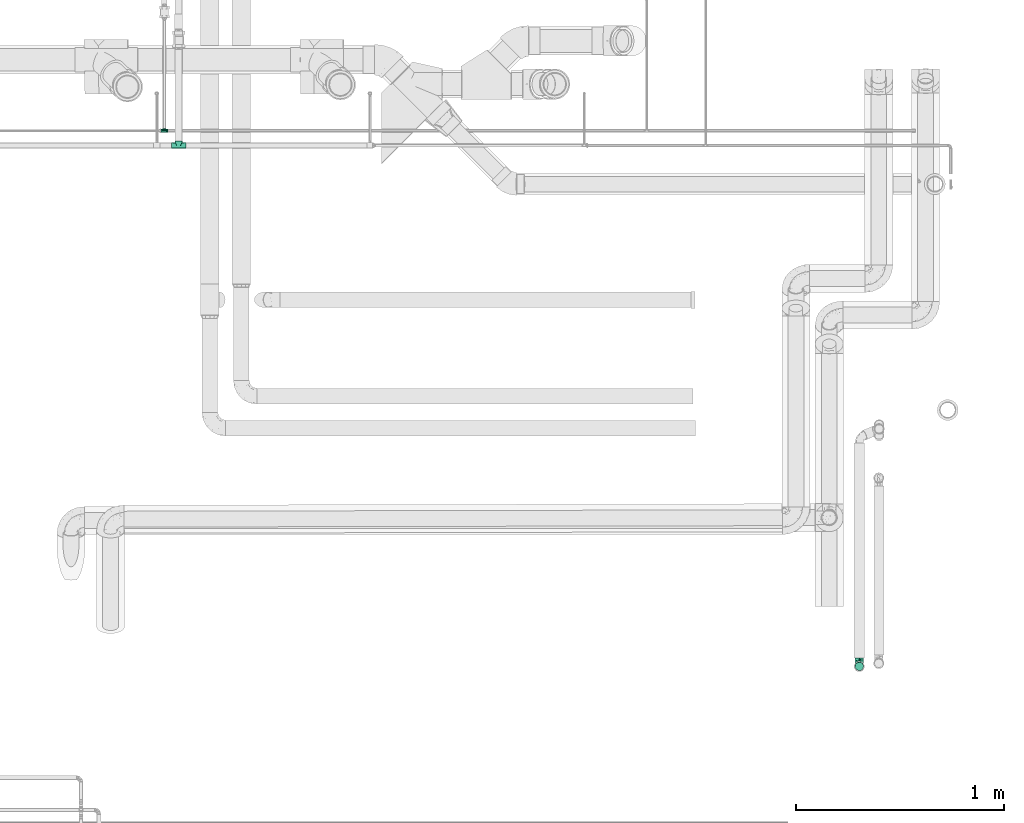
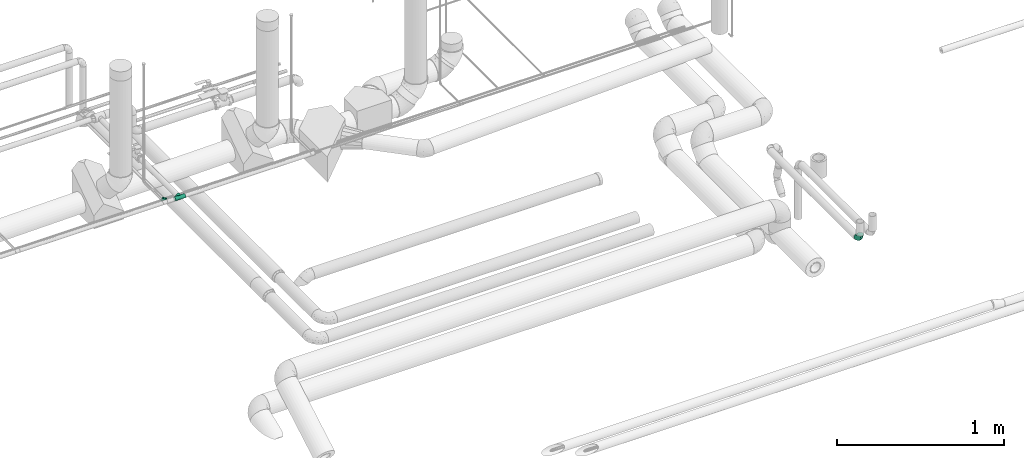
# One storey, part 148 of 156: 3 flow fittings.
"""IFC2X3 building model written with IfcOpenShell, lengths in millimetres."""

import ifcopenshell
import ifcopenshell.guid

model = None  # the IFC model being written
_history = None  # IfcOwnerHistory: only IFC2X3 demands one
_inside = {}  # id of a spatial element -> (the spatial element, [elements in it])
_under = {}  # id of a project, library or spatial element -> (it, [spatial elements below it])
_declared = {}  # id of a project -> (the project, [libraries it declares])
_typed = {}  # id of a type object -> (the type object, [elements of that type])
_made_of = {}  # id of a material, layer set ... -> (it, [elements and type objects made of it])


def new_model(schema):
    """Start an empty IFC model of exactly this schema.

    Asked for "IFC4X3", IfcOpenShell would pick the latest addendum, in which some entities
    have other attributes; the version numbers below select the first issue.
    IFC2X3 requires an IfcOwnerHistory on every rooted entity: one is made here for all.
    """
    global model, _history
    if schema == "IFC4X3":
        model = ifcopenshell.file(schema_version=(4, 3, 0, 0))
    else:
        model = ifcopenshell.file(schema=schema)
    _inside.clear()
    _under.clear()
    _declared.clear()
    _typed.clear()
    _made_of.clear()
    _history = None
    if model.schema == "IFC2X3":
        org = make("IfcOrganization", Name="unknown")
        user = make(
            "IfcPersonAndOrganization",
            ThePerson=make("IfcPerson", FamilyName="unknown"),
            TheOrganization=org,
        )
        app = make(
            "IfcApplication",
            ApplicationDeveloper=org,
            Version="unknown",
            ApplicationFullName="unknown",
            ApplicationIdentifier="unknown",
        )
        _history = make(
            "IfcOwnerHistory",
            OwningUser=user,
            OwningApplication=app,
            ChangeAction="ADDED",
            CreationDate=0,
        )
    return model


def make(cls, **values):
    """One entity of the class cls with the attributes given. An attribute that is None is left unset."""
    return model.create_entity(
        cls, **{name: value for name, value in values.items() if value is not None}
    )


def entity(cls, *values):
    """Any entity or typed value of the class cls, its attributes in the order of the schema. None: left unset."""
    e = model.create_entity(cls)
    for i, value in enumerate(values):
        if value is not None:
            e[i] = value
    return e


def rooted(cls, **values):
    """An entity with a GlobalId (a new one), such as an element, a storey or a relation."""
    return make(cls, GlobalId=ifcopenshell.guid.new(), OwnerHistory=_history, **values)


def si_unit(unit_type, name, prefix=None):
    """IfcSIUnit, for example si_unit("LENGTHUNIT", "METRE", prefix="MILLI")."""
    return make("IfcSIUnit", UnitType=unit_type, Prefix=prefix, Name=name)


def converted_unit(unit_type, name, factor, base, dimensions=None, offset=None):
    """IfcConversionBasedUnit, such as the inch: factor (a typed value) times the base unit."""
    return make(
        "IfcConversionBasedUnit"
        if offset is None
        else "IfcConversionBasedUnitWithOffset",
        ConversionOffset=offset,
        Dimensions=None
        if dimensions is None
        else entity("IfcDimensionalExponents", *dimensions),
        UnitType=unit_type,
        Name=name,
        ConversionFactor=make(
            "IfcMeasureWithUnit", ValueComponent=factor, UnitComponent=base
        ),
    )


def derived_unit(unit_type, elements):
    """IfcDerivedUnit: a product of units, each with its exponent."""
    return make(
        "IfcDerivedUnit",
        Elements=[
            make("IfcDerivedUnitElement", Unit=unit, Exponent=power)
            for unit, power in elements
        ],
        UnitType=unit_type,
    )


def assignment(units):
    """IfcUnitAssignment: the units of a project."""
    return None if units is None else make("IfcUnitAssignment", Units=units)


def point(xyz):
    """IfcCartesianPoint."""
    return None if xyz is None else make("IfcCartesianPoint", Coordinates=xyz)


def direction(xyz):
    """IfcDirection."""
    return None if xyz is None else make("IfcDirection", DirectionRatios=xyz)


def frame(location, z_axis=None, x_axis=None):
    """IfcAxis2Placement3D, a coordinate frame: its origin and axes. An axis left out is left unset."""
    return make(
        "IfcAxis2Placement3D",
        Location=point(location),
        Axis=direction(z_axis),
        RefDirection=direction(x_axis),
    )


def origin_with_axes():
    """The frame at (0, 0, 0) with the z axis (0, 0, 1) and the x axis (1, 0, 0) written out."""
    return frame((0.0, 0.0, 0.0), z_axis=(0.0, 0.0, 1.0), x_axis=(1.0, 0.0, 0.0))


def place(relative_to, where):
    """IfcLocalPlacement: puts the frame where relative to a parent placement (None: the world)."""
    return make(
        "IfcLocalPlacement", PlacementRelTo=relative_to, RelativePlacement=where
    )


def context(
    kind, dimensions, precision=None, world=None, true_north=None, identifier=None
):
    """IfcGeometricRepresentationContext, for example the 3D "Model" context."""
    return make(
        "IfcGeometricRepresentationContext",
        ContextIdentifier=identifier,
        ContextType=kind,
        CoordinateSpaceDimension=dimensions,
        Precision=precision,
        WorldCoordinateSystem=world,
        TrueNorth=true_north,
    )


def subcontext(parent, identifier, kind, view, scale=None):
    """IfcGeometricRepresentationSubContext, for example "Body" below "Model"."""
    return make(
        "IfcGeometricRepresentationSubContext",
        ContextIdentifier=identifier,
        ContextType=kind,
        ParentContext=parent,
        TargetScale=scale,
        TargetView=view,
    )


def project(units=None, contexts=None):
    """IfcProject with its units and contexts."""
    return rooted(
        "IfcProject",
        Name="project",
        RepresentationContexts=contexts,
        UnitsInContext=assignment(units),
    )


def spatial(cls, under=None, at=None, **own):
    """A site, building, storey or space (cls), placed at a placement, below another one or the project."""
    s = rooted(cls, ObjectPlacement=at, **own)
    if under is not None:
        _under.setdefault(under.id(), (under, []))[1].append(s)
    return s


def faces_of(points, faces, orient=None, outer=None):
    """IfcFace entities. A face is a list of loops; a loop is a list of indices into points, from 0.

    orient and outer hold one flag for each loop. By default every Orientation is true, the
    first loop of a face is its IfcFaceOuterBound and the others are IfcFaceBound.
    """
    made = []
    for i, loops in enumerate(faces):
        bounds = []
        for j, loop in enumerate(loops):
            is_outer = j == 0 if outer is None else outer[i][j]
            bounds.append(
                make(
                    "IfcFaceOuterBound" if is_outer else "IfcFaceBound",
                    Bound=make("IfcPolyLoop", Polygon=[points[k] for k in loop]),
                    Orientation=True if orient is None else orient[i][j],
                )
            )
        made.append(make("IfcFace", Bounds=bounds))
    return made


def open_shell(faces, orient=None, outer=None):
    """The faces of one IfcOpenShell. surface_model builds it on its shared points."""
    return ("IfcOpenShell", faces, orient, outer)


def surface_model(cls, points, shells):
    """IfcFaceBasedSurfaceModel or IfcShellBasedSurfaceModel (cls): surfaces that need not close."""
    shared = [point(p) for p in points]
    made = [make(c, CfsFaces=faces_of(shared, fs, o, b)) for c, fs, o, b in shells]
    if cls == "IfcFaceBasedSurfaceModel":
        return make(cls, FbsmFaces=made)
    return make(cls, SbsmBoundary=made)


def shape(context_of_items, identifier, shape_type, items):
    """IfcShapeRepresentation: the items that make up one representation, for example the "Body"."""
    return make(
        "IfcShapeRepresentation",
        ContextOfItems=context_of_items,
        RepresentationIdentifier=identifier,
        RepresentationType=shape_type,
        Items=items,
    )


def source(mapping_origin, context_of_items, identifier, shape_type, items):
    """IfcRepresentationMap: a shape defined once, which mapped items show again and again."""
    return make(
        "IfcRepresentationMap",
        MappingOrigin=mapping_origin,
        MappedRepresentation=shape(context_of_items, identifier, shape_type, items),
    )


def transform(
    local_origin,
    x_axis=None,
    y_axis=None,
    z_axis=None,
    scale=None,
    scale2=None,
    scale3=None,
    uniform=True,
):
    """IfcCartesianTransformationOperator3D, or its non-uniform kind. x_axis, y_axis, z_axis: its Axis1, 2, 3."""
    if uniform:
        return make(
            "IfcCartesianTransformationOperator3D",
            Axis1=direction(x_axis),
            Axis2=direction(y_axis),
            LocalOrigin=point(local_origin),
            Scale=scale,
            Axis3=direction(z_axis),
        )
    return make(
        "IfcCartesianTransformationOperator3DnonUniform",
        Axis1=direction(x_axis),
        Axis2=direction(y_axis),
        LocalOrigin=point(local_origin),
        Scale=scale,
        Axis3=direction(z_axis),
        Scale2=scale2,
        Scale3=scale3,
    )


def mapped(mapping_source, mapping_target):
    """IfcMappedItem: shows the shape of a source again, moved by a transform."""
    return make(
        "IfcMappedItem", MappingSource=mapping_source, MappingTarget=mapping_target
    )


def made_of(thing, what):
    """Note that an element or type object is made of a material, layer set ...; save() writes the relation."""
    if what is not None:
        _made_of.setdefault(what.id(), (what, []))[1].append(thing)
    return thing


def type_object(cls, material=None, **own):
    """A type object (cls), such as IfcWallType, which elements share."""
    return made_of(rooted(cls, **own), material)


def element(
    cls,
    number,
    at=None,
    inside=None,
    cuts=None,
    type_object=None,
    material=None,
    context=None,
    identifier="Body",
    shape_type=None,
    held_by="IfcProductDefinitionShape",
    body=None,
    shapes=None,
    **own,
):
    """One element of the class cls, such as IfcWall. Its Tag is "e" and its number.

    at: its placement. inside: the storey or other place that contains it. cuts: it is an
    opening in that element (IfcRelVoidsElement). A single representation is given by context,
    identifier, shape_type and body (its items); several are given by shapes. held_by: the class
    of the entity that holds the representations. save() writes the other relations.
    """
    e = rooted(cls, Tag="e%d" % number, ObjectPlacement=at, **own)
    if body is not None:
        shapes = [shape(context, identifier, shape_type, body)]
    if shapes is not None:
        e.Representation = make(held_by, Representations=shapes)
    if inside is not None:
        _inside.setdefault(inside.id(), (inside, []))[1].append(e)
    if cuts is not None:
        rooted(
            "IfcRelVoidsElement", RelatingBuildingElement=cuts, RelatedOpeningElement=e
        )
    if type_object is not None:
        _typed.setdefault(type_object.id(), (type_object, []))[1].append(e)
    return made_of(e, material)


def aggregate(whole, parts):
    """IfcRelAggregates: a whole, such as a stair, and the parts it consists of."""
    return rooted("IfcRelAggregates", RelatingObject=whole, RelatedObjects=parts)


def save(model, path):
    """Write the relations noted so far, then the file.

    IfcRelAggregates (storeys below a building ...), IfcRelContainedInSpatialStructure (elements
    in a storey), IfcRelDefinesByType, IfcRelAssociatesMaterial and IfcRelDeclares: one each for
    every whole, place, type object, material and project.
    """
    for whole, parts in _under.values():
        aggregate(whole, parts)
    for where, things in _inside.values():
        rooted(
            "IfcRelContainedInSpatialStructure",
            RelatedElements=things,
            RelatingStructure=where,
        )
    for kind, things in _typed.values():
        rooted("IfcRelDefinesByType", RelatedObjects=things, RelatingType=kind)
    for what, things in _made_of.values():
        rooted("IfcRelAssociatesMaterial", RelatedObjects=things, RelatingMaterial=what)
    for by, libraries in _declared.values():
        rooted("IfcRelDeclares", RelatingContext=by, RelatedDefinitions=libraries)
    model.write(path)


model = new_model("IFC2X3")

# Units and contexts
model_context = context("Model", 3, precision=0.01, world=frame((0.0, 4.29681676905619e-09, 0.0)), true_north=direction((4.01073788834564e-13, 1.0)))
plan_context = context("Plan", 3, precision=0.01, world=frame((0.0, 4.29681676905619e-09, 0.0)), true_north=direction((4.01073788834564e-13, 1.0)))
body_context = subcontext(model_context, "Body", "Model", "MODEL_VIEW")
ifc_project = project(units=[converted_unit("PLANEANGLEUNIT", "DEGREE", entity("IfcPositiveLengthMeasure", 0.0174532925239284), si_unit("PLANEANGLEUNIT", "RADIAN"), dimensions=[0, 0, 0, 0, 0, 0, 0]), si_unit("AREAUNIT", "SQUARE_METRE"), si_unit("LENGTHUNIT", "METRE", prefix="MILLI"), si_unit("MASSUNIT", "GRAM", prefix="KILO"), si_unit("POWERUNIT", "WATT"), si_unit("PRESSUREUNIT", "PASCAL", prefix="KILO"), si_unit("FORCEUNIT", "NEWTON", prefix="KILO"), si_unit("ELECTRICVOLTAGEUNIT", "VOLT"), si_unit("ELECTRICCURRENTUNIT", "AMPERE"), si_unit("THERMODYNAMICTEMPERATUREUNIT", "DEGREE_CELSIUS"), si_unit("TIMEUNIT", "SECOND"), si_unit("VOLUMEUNIT", "CUBIC_METRE"), derived_unit("LINEARVELOCITYUNIT", [(si_unit("LENGTHUNIT", "METRE"), 1), (si_unit("TIMEUNIT", "SECOND"), -1)]), derived_unit("VOLUMETRICFLOWRATEUNIT", [(si_unit("VOLUMEUNIT", "CUBIC_METRE"), 1), (si_unit("TIMEUNIT", "SECOND"), -1)]), derived_unit("THERMALTRANSMITTANCEUNIT", [(si_unit("POWERUNIT", "WATT"), 1), (si_unit("THERMODYNAMICTEMPERATUREUNIT", "KELVIN"), -1), (si_unit("AREAUNIT", "SQUARE_METRE"), -1)]), derived_unit("SOUNDPRESSUREUNIT", [(si_unit("PRESSUREUNIT", "PASCAL"), 1)])], contexts=[model_context, plan_context])

# Site, building, storey
site_placement = place(None, frame((0.0, -4.29681676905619e-09, 0.0), z_axis=(0.0, 0.0, 1.0), x_axis=(1.0, 0.0, 0.0)))
site = spatial("IfcSite", under=ifc_project, at=site_placement, CompositionType="ELEMENT")
building_placement = place(site_placement, frame((0.0, 4.29681676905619e-09, 0.0), z_axis=(0.0, 0.0, 1.0), x_axis=(1.0, 0.0, 0.0)))
building = spatial("IfcBuilding", under=site, at=building_placement, Name="mc-building", CompositionType="ELEMENT")
storey_placement = place(building_placement, frame((0.0, 0.0, 205200.0), z_axis=(0.0, 0.0, 1.0), x_axis=(1.0, 0.0, 0.0)))
storey = spatial("IfcBuildingStorey", under=building, at=storey_placement, Name="Nivå D + 1,2 m", CompositionType="ELEMENT", Elevation=205200.0)

# Flow fittings
pipe_fitting_type_1 = type_object("IfcPipeFittingType", Name="magi_pipe_tee_centric_90_001", PredefinedType="JUNCTION")
shared_shape_1 = source(origin_with_axes(), body_context, "Body", "SurfaceModel", [
    surface_model("IfcShellBasedSurfaceModel", [(-35.0, 3.62347, -13.52296), (-35.0, 0.0, -14.0), (-35.0, 9.89949, -9.89949), (-35.0, 7.0, -12.12436), (-35.0, 13.52296, -3.62347), (-35.0, 12.12436, -7.0), (-35.0, -12.12436, -7.0), (-35.0, -9.89949, -9.89949), (-35.0, -7.0, -12.12436), (-35.0, -3.62347, -13.52296), (-35.0, -13.52296, -3.62347), (-35.0, -14.0, 0.0), (-35.0, 14.0, 0.0), (-35.0, 12.12436, 7.0), (-35.0, 13.52296, 3.62347), (-35.0, 3.62347, 13.52296), (-35.0, 7.0, 12.12436), (-35.0, 9.89949, 9.89949), (-35.0, 0.0, 14.0), (-35.0, -13.52296, 3.62347), (-35.0, -12.12436, 7.0), (-35.0, -9.89949, 9.89949), (-35.0, -7.0, 12.12436), (-35.0, -3.62347, 13.52296), (35.0, 9.89949, -9.89949), (35.0, 0.0, -14.0), (35.0, 3.62347, -13.52296), (35.0, 7.0, -12.12436), (35.0, 12.12436, -7.0), (35.0, 13.52296, -3.62347), (35.0, -12.12436, -7.0), (35.0, -7.0, -12.12436), (35.0, -9.89949, -9.89949), (35.0, -3.62347, -13.52296), (35.0, -14.0, 0.0), (35.0, -13.52296, -3.62347), (35.0, -7.0, 12.12436), (35.0, 14.0, 0.0), (35.0, 13.52296, 3.62347), (35.0, 12.12436, 7.0), (35.0, 3.62347, 13.52296), (35.0, 7.0, 12.12436), (35.0, 9.89949, 9.89949), (35.0, 0.0, 14.0), (35.0, -12.12436, 7.0), (35.0, -13.52296, 3.62347), (35.0, -9.89949, 9.89949), (35.0, -3.62347, 13.52296), (17.18926, -13.60958, 3.28321), (35.0, -12.82366, 5.31173), (16.32877, -12.50515, 6.29454), (16.75902, -13.05736, 4.78887), (17.5, -14.0, 0.0), (13.63414, -8.69711, 10.97089), (35.0, -8.44975, 11.01193), (15.08249, -10.82735, 8.87516), (35.0, -11.01193, 8.44975), (14.35831, -9.76223, 9.92302), (15.70563, -11.66625, 7.58485), (-16.32877, -12.50515, 6.29454), (-15.70563, -11.66625, 7.58485), (-35.0, -12.82366, 5.31173), (-16.75902, -13.05736, 4.78887), (-17.5, -14.0, 0.0), (-17.18926, -13.60958, 3.28321), (12.17994, -6.1726, 12.56579), (35.0, -5.31173, 12.82366), (-13.63414, -8.69711, 10.97089), (-12.17994, -6.1726, 12.56579), (-14.35831, -9.76223, 9.92302), (-35.0, -11.01193, 8.44975), (-35.0, -8.44975, 11.01193), (-35.0, -5.31173, 12.82366), (-15.08249, -10.82735, 8.87516), (10.99292, -3.25489, 13.61638), (10.5, 0.0, 14.0), (-10.5, 0.0, 14.0), (-10.99292, -3.25489, 13.61638), (-35.0, -12.82366, -5.31173), (-16.32877, -12.50515, -6.29454), (-16.75902, -13.05736, -4.78887), (10.99292, -3.25489, -13.61638), (10.5, 0.0, -14.0), (-15.70563, -11.66625, -7.58485), (-35.0, -11.01193, -8.44975), (-15.08249, -10.82735, -8.87516), (-12.17994, -6.1726, -12.56579), (-35.0, -5.31173, -12.82366), (-10.5, 0.0, -14.0), (-13.63414, -8.69711, -10.97089), (-14.35831, -9.76223, -9.92302), (16.75902, -13.05736, -4.78887), (35.0, -12.82366, -5.31173), (-10.99292, -3.25489, -13.61638), (-17.18926, -13.60958, -3.28321), (-35.0, -8.44975, -11.01193), (35.0, -5.31173, -12.82366), (15.70563, -11.66625, -7.58485), (35.0, -11.01193, -8.44975), (13.63414, -8.69711, -10.97089), (35.0, -8.44975, -11.01193), (14.35831, -9.76223, -9.92302), (16.32877, -12.50515, -6.29454), (12.17994, -6.1726, -12.56579), (15.08249, -10.82735, -8.87516), (17.18926, -13.60958, -3.28321), (4.52933, -21.0, -16.9037), (-12.37437, -21.0, -12.37437), (0.0, -21.0, -17.5), (12.37437, -21.0, -12.37437), (8.75, -21.0, -15.15544), (15.15544, -21.0, -8.75), (16.9037, -21.0, -4.52933), (16.9037, -21.0, 4.52933), (-16.9037, -21.0, -4.52933), (-8.75, -21.0, -15.15544), (-4.52933, -21.0, -16.9037), (-15.15544, -21.0, -8.75), (8.75, -21.0, 15.15544), (-17.5, -21.0, 0.0), (15.15544, -21.0, 8.75), (4.52933, -21.0, 16.9037), (12.37437, -21.0, 12.37437), (0.0, -21.0, 17.5), (-15.15544, -21.0, 8.75), (-16.9037, -21.0, 4.52933), (-12.37437, -21.0, 12.37437), (-4.52933, -21.0, 16.9037), (-8.75, -21.0, 15.15544), (17.5, -21.0, 0.0), (-7.27702, 0.0, 15.91524), (-3.72385, 0.0, 17.09921), (-0.00025, 0.0, 17.5), (3.72299, 0.0, 17.0994), (7.27593, 0.0, 15.91574), (7.27593, 0.0, -15.91574), (3.72299, 0.0, -17.0994), (-0.00025, 0.0, -17.5), (-7.27702, 0.0, -15.91524), (-3.72385, 0.0, -17.09921)], [open_shell([[[0, 1, 2]], [[3, 0, 2]], [[1, 4, 5]], [[2, 1, 5]], [[6, 4, 1]], [[7, 6, 8]], [[9, 8, 6]], [[10, 11, 6]], [[1, 9, 6]], [[6, 11, 4]], [[11, 12, 4]], [[13, 14, 12]], [[15, 13, 12]], [[13, 15, 16]], [[17, 13, 16]], [[18, 15, 12]], [[19, 20, 11]], [[20, 21, 11]], [[22, 23, 12]], [[21, 22, 11]], [[12, 23, 18]], [[12, 11, 22]], [[24, 25, 26]], [[24, 26, 27]], [[28, 29, 25]], [[28, 25, 24]], [[25, 29, 30]], [[31, 30, 32]], [[30, 31, 33]], [[30, 34, 35]], [[30, 33, 25]], [[30, 36, 34]], [[30, 29, 37]], [[37, 38, 39]], [[37, 39, 40]], [[41, 40, 39]], [[41, 39, 42]], [[37, 40, 43]], [[34, 44, 45]], [[34, 46, 44]], [[47, 36, 30]], [[34, 36, 46]], [[43, 47, 37]], [[30, 37, 47]], [[34, 45, 48]], [[49, 50, 51]], [[48, 52, 34]], [[45, 49, 51]], [[53, 46, 54]], [[49, 44, 50]], [[54, 36, 53]], [[46, 55, 56]], [[55, 46, 57]], [[45, 51, 48]], [[44, 58, 50]], [[20, 59, 60]], [[46, 53, 57]], [[59, 61, 62]], [[19, 62, 61]], [[63, 64, 11]], [[11, 64, 19]], [[19, 64, 62]], [[65, 36, 66]], [[58, 56, 55]], [[56, 58, 44]], [[67, 68, 22]], [[69, 67, 21]], [[70, 20, 60]], [[21, 67, 71]], [[68, 72, 22]], [[70, 60, 73]], [[21, 73, 69]], [[53, 36, 65]], [[74, 43, 75]], [[66, 74, 65]], [[74, 66, 47]], [[74, 47, 43]], [[73, 21, 70]], [[75, 43, 40]], [[39, 38, 14]], [[17, 41, 42]], [[13, 42, 39]], [[40, 41, 16]], [[12, 38, 37]], [[18, 76, 15]], [[67, 22, 71]], [[23, 77, 18]], [[72, 77, 23]], [[18, 77, 76]], [[76, 75, 15]], [[77, 72, 68]], [[40, 15, 75]], [[16, 15, 40]], [[16, 41, 17]], [[13, 17, 42]], [[14, 13, 39]], [[38, 12, 14]], [[59, 20, 61]], [[78, 79, 80]], [[5, 28, 24]], [[5, 29, 28]], [[24, 27, 3]], [[12, 37, 29]], [[25, 33, 81]], [[25, 82, 26]], [[82, 25, 81]], [[83, 84, 85]], [[27, 26, 0]], [[86, 8, 87]], [[82, 88, 26]], [[7, 89, 90]], [[5, 4, 29]], [[35, 91, 92]], [[3, 2, 24]], [[5, 24, 2]], [[4, 12, 29]], [[1, 88, 93]], [[10, 80, 94]], [[89, 7, 95]], [[93, 86, 87]], [[88, 1, 0]], [[1, 93, 9]], [[87, 9, 93]], [[0, 3, 27]], [[88, 0, 26]], [[33, 96, 81]], [[30, 97, 98]], [[32, 99, 100]], [[99, 32, 101]], [[102, 30, 92]], [[31, 99, 103]], [[97, 104, 98]], [[35, 34, 105]], [[102, 92, 91]], [[52, 105, 34]], [[32, 104, 101]], [[91, 35, 105]], [[89, 8, 86]], [[99, 31, 100]], [[89, 95, 8]], [[7, 90, 85]], [[7, 85, 84]], [[104, 32, 98]], [[81, 96, 103]], [[30, 102, 97]], [[84, 83, 6]], [[94, 63, 11]], [[10, 78, 80]], [[79, 78, 6]], [[10, 94, 11]], [[79, 6, 83]], [[31, 103, 96]], [[106, 107, 108]], [[109, 106, 110]], [[109, 111, 112]], [[106, 109, 107]], [[109, 113, 114]], [[108, 115, 116]], [[108, 107, 115]], [[107, 114, 117]], [[109, 114, 107]], [[114, 118, 119]], [[113, 109, 112]], [[114, 113, 120]], [[114, 120, 118]], [[121, 119, 118]], [[118, 120, 122]], [[123, 119, 121]], [[119, 124, 125]], [[119, 126, 124]], [[126, 127, 128]], [[126, 119, 127]], [[127, 119, 123]], [[113, 112, 129]], [[119, 125, 64]], [[64, 63, 119]], [[64, 125, 59]], [[124, 126, 67]], [[126, 128, 68]], [[125, 124, 59]], [[130, 128, 127]], [[73, 59, 124]], [[67, 126, 68]], [[124, 67, 73]], [[77, 128, 130]], [[127, 131, 130]], [[77, 130, 76]], [[68, 128, 77]], [[132, 131, 123]], [[131, 127, 123]], [[121, 133, 123]], [[134, 121, 118]], [[118, 122, 65]], [[48, 113, 129]], [[122, 120, 53]], [[113, 50, 120]], [[129, 52, 48]], [[74, 75, 134]], [[134, 118, 74]], [[134, 133, 121]], [[48, 50, 113]], [[118, 65, 74]], [[65, 122, 53]], [[50, 55, 120]], [[120, 55, 53]], [[123, 133, 132]], [[52, 129, 105]], [[111, 102, 112]], [[129, 112, 105]], [[109, 110, 103]], [[110, 106, 135]], [[111, 109, 99]], [[136, 106, 108]], [[102, 105, 112]], [[104, 111, 99]], [[102, 111, 104]], [[103, 110, 81]], [[81, 135, 82]], [[110, 135, 81]], [[99, 109, 103]], [[135, 106, 136]], [[108, 137, 136]], [[86, 115, 107]], [[138, 116, 115]], [[89, 107, 117]], [[114, 119, 94]], [[63, 94, 119]], [[117, 114, 79]], [[79, 114, 94]], [[139, 116, 138]], [[138, 93, 88]], [[108, 139, 137]], [[79, 85, 117]], [[93, 138, 115]], [[86, 93, 115]], [[86, 107, 89]], [[117, 85, 89]], [[139, 108, 116]], [[130, 131, 76]], [[75, 76, 134]], [[76, 132, 133]], [[132, 76, 131]], [[133, 134, 76]], [[139, 136, 137]], [[135, 136, 139]], [[88, 82, 135]], [[88, 139, 138]], [[135, 139, 88]]])]),
])
flow_fitting_1_placement = place(storey_placement, frame((326734.3046, 462313.63355, 4318.0), z_axis=(0.0, 0.0, 1.0), x_axis=(-1.0, 0.0, 0.0)))
element("IfcFlowFitting", 1, at=flow_fitting_1_placement, inside=storey, type_object=pipe_fitting_type_1, Name="magi_pipe_tee_centric_90_001", context=body_context, shape_type="MappedRepresentation", body=[
    mapped(shared_shape_1, transform((0.0, 0.0, 0.0), scale=1.0)),
])
shared_shape_2 = source(origin_with_axes(), body_context, "Body", "SurfaceModel", [
    surface_model("IfcShellBasedSurfaceModel", [(-18.0, 3.75, -6.49519), (-18.0, 1.94114, -7.24444), (-18.0, 0.0, -7.5), (-18.0, -7.5, 0.0), (-18.0, 6.49519, -3.75), (-18.0, 5.3033, -5.3033), (-18.0, -7.24444, 1.94114), (-18.0, -5.3033, -5.3033), (-18.0, -3.75, -6.49519), (-18.0, -1.94114, -7.24444), (-18.0, -6.49519, -3.75), (-18.0, -7.24444, -1.94114), (-18.0, 7.24444, -1.94114), (-18.0, 6.49519, 3.75), (-18.0, 7.24444, 1.94114), (-18.0, 7.5, 0.0), (-18.0, 3.75, 6.49519), (-18.0, 5.3033, 5.3033), (-18.0, 1.94114, 7.24444), (-18.0, 0.0, 7.5), (-18.0, -6.49519, 3.75), (-18.0, -5.3033, 5.3033), (-18.0, -1.94114, 7.24444), (-18.0, -3.75, 6.49519), (18.0, 0.0, -7.5), (18.0, 1.94114, -7.24444), (18.0, 3.75, -6.49519), (18.0, -7.24444, 1.94114), (18.0, -7.5, 0.0), (18.0, 6.49519, -3.75), (18.0, 5.3033, -5.3033), (18.0, 6.49519, 3.75), (18.0, -5.3033, -5.3033), (18.0, -3.75, -6.49519), (18.0, -1.94114, -7.24444), (18.0, -7.24444, -1.94114), (18.0, -6.49519, -3.75), (18.0, 7.24444, -1.94114), (18.0, 7.5, 0.0), (18.0, 7.24444, 1.94114), (18.0, 3.75, 6.49519), (18.0, 5.3033, 5.3033), (18.0, 0.0, 7.5), (18.0, 1.94114, 7.24444), (18.0, -5.3033, 5.3033), (18.0, -6.49519, 3.75), (18.0, -3.75, 6.49519), (18.0, -1.94114, 7.24444), (9.0, -7.5, 0.0), (8.82384, -7.28767, 1.77195), (8.33672, -6.68961, 3.39103), (7.63139, -5.78689, 4.77094), (6.80858, -4.64831, 5.88585), (5.97298, -3.30553, 6.73227), (-8.82384, -7.28767, 1.77195), (-9.0, -7.5, 0.0), (-8.33672, -6.68961, 3.39103), (-6.80858, -4.64831, 5.88585), (-7.63139, -5.78689, 4.77094), (5.27431, -1.75166, 7.29258), (4.97494, 0.0, 7.5), (-4.97494, 0.0, 7.5), (-5.27431, -1.75166, 7.29258), (-5.97298, -3.30553, 6.73227), (4.97494, 0.0, -7.5), (5.27431, -1.75166, -7.29258), (5.97298, -3.30553, -6.73227), (6.80858, -4.64831, -5.88585), (-4.97494, 0.0, -7.5), (-5.27431, -1.75166, -7.29258), (-5.97298, -3.30553, -6.73227), (7.63139, -5.78689, -4.77094), (8.33672, -6.68961, -3.39103), (8.82384, -7.28767, -1.77195), (-6.80858, -4.64831, -5.88585), (-7.63139, -5.78689, -4.77094), (-8.33672, -6.68961, -3.39103), (-8.82384, -7.28767, -1.77195), (0.0, -11.25, -9.0), (2.32937, -11.25, -8.69333), (4.5, -11.25, -7.79423), (-8.69333, -11.25, 2.32937), (-4.5, -11.25, 7.79423), (6.36396, -11.25, -6.36396), (7.79423, -11.25, -4.5), (-9.0, -11.25, 0.0), (-2.32937, -11.25, -8.69333), (-6.36396, -11.25, -6.36396), (-4.5, -11.25, -7.79423), (-7.79423, -11.25, -4.5), (-8.69333, -11.25, -2.32937), (8.69333, -11.25, -2.32937), (8.69333, -11.25, 2.32937), (9.0, -11.25, 0.0), (2.32937, -11.25, 8.69333), (7.79423, -11.25, 4.5), (4.5, -11.25, 7.79423), (6.36396, -11.25, 6.36396), (-6.36396, -11.25, 6.36396), (-7.79423, -11.25, 4.5), (0.0, -11.25, 9.0), (-2.32937, -11.25, 8.69333), (-1.0508, 0.0, 8.93845), (-3.09681, 0.0, 8.45043), (3.09823, 0.0, 8.44991), (1.05247, 0.0, 8.93825), (1.05247, 0.0, -8.93825), (3.09823, 0.0, -8.44991), (-1.0508, 0.0, -8.93845), (-3.09681, 0.0, -8.45043)], [open_shell([[[0, 1, 2]], [[0, 2, 3]], [[4, 0, 3]], [[5, 0, 4]], [[4, 3, 6]], [[7, 3, 8]], [[2, 9, 8]], [[10, 11, 7]], [[3, 7, 11]], [[8, 3, 2]], [[6, 12, 4]], [[13, 14, 15]], [[16, 13, 15]], [[12, 6, 16]], [[17, 13, 16]], [[18, 16, 19]], [[20, 21, 6]], [[19, 6, 21]], [[22, 19, 23]], [[21, 23, 19]], [[19, 16, 6]], [[15, 12, 16]], [[24, 25, 26]], [[27, 28, 24]], [[26, 27, 24]], [[29, 26, 30]], [[29, 31, 26]], [[24, 32, 33]], [[33, 34, 24]], [[32, 35, 36]], [[35, 32, 28]], [[28, 32, 24]], [[29, 37, 38]], [[38, 39, 31]], [[31, 40, 26]], [[26, 40, 27]], [[40, 31, 41]], [[42, 40, 43]], [[27, 44, 45]], [[44, 27, 42]], [[46, 42, 47]], [[42, 46, 44]], [[27, 40, 42]], [[31, 29, 38]], [[28, 27, 48]], [[49, 48, 27]], [[45, 50, 49]], [[49, 27, 45]], [[44, 51, 50]], [[51, 46, 52]], [[46, 51, 44]], [[53, 52, 47]], [[44, 50, 45]], [[6, 54, 20]], [[55, 6, 3]], [[6, 55, 54]], [[54, 56, 20]], [[23, 57, 22]], [[58, 57, 23]], [[21, 20, 56]], [[21, 58, 23]], [[21, 56, 58]], [[52, 46, 47]], [[47, 42, 59]], [[42, 60, 59]], [[60, 42, 43]], [[60, 43, 40]], [[31, 60, 41]], [[39, 38, 60]], [[60, 31, 39]], [[41, 60, 40]], [[60, 38, 61]], [[62, 61, 19]], [[62, 22, 63]], [[22, 62, 19]], [[63, 22, 57]], [[61, 18, 19]], [[61, 14, 13]], [[13, 17, 61]], [[16, 18, 61]], [[61, 17, 16]], [[14, 61, 15]], [[61, 38, 15]], [[59, 53, 47]], [[37, 64, 38]], [[30, 64, 29]], [[64, 37, 29]], [[64, 30, 26]], [[64, 25, 24]], [[65, 34, 66]], [[34, 65, 24]], [[66, 34, 67]], [[26, 25, 64]], [[24, 65, 64]], [[68, 0, 5]], [[12, 68, 4]], [[5, 4, 68]], [[68, 12, 15]], [[68, 69, 2]], [[68, 1, 0]], [[68, 2, 1]], [[2, 69, 9]], [[9, 69, 70]], [[68, 15, 64]], [[15, 38, 64]], [[33, 32, 71]], [[33, 71, 67]], [[72, 71, 32]], [[72, 32, 36]], [[35, 28, 48]], [[72, 36, 73]], [[48, 73, 35]], [[73, 36, 35]], [[74, 8, 9]], [[8, 75, 7]], [[75, 8, 74]], [[7, 75, 76]], [[74, 9, 70]], [[77, 55, 11]], [[76, 77, 10]], [[77, 11, 10]], [[11, 55, 3]], [[76, 10, 7]], [[67, 34, 33]], [[78, 79, 80]], [[81, 78, 80]], [[82, 83, 84]], [[80, 83, 82]], [[85, 78, 81]], [[86, 87, 88]], [[86, 78, 87]], [[89, 85, 90]], [[85, 89, 87]], [[78, 85, 87]], [[84, 91, 82]], [[92, 82, 93]], [[94, 92, 95]], [[96, 94, 95]], [[96, 95, 97]], [[82, 92, 94]], [[81, 98, 99]], [[98, 81, 82]], [[82, 100, 101]], [[81, 80, 82]], [[94, 100, 82]], [[82, 91, 93]], [[85, 81, 55]], [[54, 55, 81]], [[81, 99, 54]], [[98, 56, 54]], [[98, 82, 56]], [[98, 54, 99]], [[56, 82, 101]], [[58, 56, 101]], [[63, 57, 52]], [[58, 51, 57]], [[62, 102, 103]], [[59, 102, 62]], [[103, 61, 62]], [[63, 53, 62]], [[101, 100, 58]], [[94, 51, 100]], [[50, 94, 96]], [[96, 97, 50]], [[49, 95, 92]], [[93, 48, 92]], [[97, 95, 49]], [[48, 49, 92]], [[59, 60, 104]], [[104, 105, 59]], [[105, 102, 59]], [[49, 50, 97]], [[62, 53, 59]], [[63, 52, 53]], [[50, 51, 94]], [[51, 52, 57]], [[100, 51, 58]], [[93, 91, 48]], [[73, 48, 91]], [[91, 84, 73]], [[83, 72, 73]], [[83, 80, 72]], [[83, 73, 84]], [[72, 80, 79]], [[71, 72, 79]], [[66, 67, 74]], [[71, 75, 67]], [[65, 106, 107]], [[108, 106, 65]], [[107, 64, 65]], [[66, 70, 65]], [[79, 78, 71]], [[86, 75, 78]], [[76, 86, 88]], [[88, 87, 76]], [[77, 89, 90]], [[85, 55, 90]], [[87, 89, 77]], [[55, 77, 90]], [[69, 68, 109]], [[109, 108, 69]], [[108, 65, 69]], [[77, 76, 87]], [[65, 70, 69]], [[66, 74, 70]], [[76, 75, 86]], [[75, 74, 67]], [[78, 75, 71]], [[105, 60, 61]], [[104, 60, 105]], [[102, 105, 103]], [[61, 103, 105]], [[109, 106, 108]], [[107, 106, 109]], [[68, 64, 107]], [[109, 68, 107]]])]),
])
flow_fitting_2_placement = place(storey_placement, frame((326665.49724, 462383.7286, 4285.29988999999), z_axis=(0.0, 0.0, -1.0), x_axis=(1.0, 0.0, 0.0)))
element("IfcFlowFitting", 2, at=flow_fitting_2_placement, inside=storey, type_object=pipe_fitting_type_1, Name="magi_pipe_tee_centric_90_001", context=body_context, shape_type="MappedRepresentation", body=[
    mapped(shared_shape_2, transform((0.0, 0.0, 0.0), scale=1.0)),
])
pipe_fitting_type_2 = type_object("IfcPipeFittingType", Name="magi_pipe_elbow_short_001", PredefinedType="BEND")
shared_shape_3 = source(origin_with_axes(), body_context, "Body", "SurfaceModel", [
    surface_model("IfcShellBasedSurfaceModel", [(-39.99758, 5.17638, -19.31852), (-39.99758, 0.0, -20.0), (-39.99758, 14.14214, -14.14214), (-39.99758, 10.0, -17.32051), (-39.99758, 19.31852, -5.17638), (-39.99758, 17.32051, -10.0), (-39.99758, -14.14214, -14.14214), (-39.99758, -20.0, 0.0), (-39.99758, 17.32051, 10.0), (-39.99758, -10.0, -17.32051), (-39.99758, -5.17638, -19.31852), (-39.99758, -19.31852, -5.17638), (-39.99758, -17.32051, -10.0), (-39.99758, 20.0, 0.0), (-39.99758, 19.31852, 5.17638), (-39.99758, 5.17638, 19.31852), (-39.99758, 10.0, 17.32051), (-39.99758, 14.14214, 14.14214), (-39.99758, -14.14214, 14.14214), (-39.99758, -19.31852, 5.17638), (-39.99758, -17.32051, 10.0), (-39.99758, -10.0, 17.32051), (-39.99758, -5.17638, 19.31852), (-39.99758, 0.0, 20.0), (-5.17396, 39.99789, -19.31852), (14.14455, 39.99673, -14.14214), (0.00242, 39.99758, -20.0), (-14.13972, 39.99844, -14.14214), (-9.99758, 39.99819, -17.32051), (-17.31809, 39.99863, -10.0), (-19.99758, 39.99879, 0.0), (20.00242, 39.99637, 0.0), (5.1788, 39.99727, -19.31852), (10.00242, 39.99698, -17.32051), (17.32293, 39.99654, -10.0), (19.32093, 39.99641, -5.17638), (-19.3161, 39.99875, -5.17638), (-19.3161, 39.99875, 5.17638), (-17.31809, 39.99863, 10.0), (14.14455, 39.99673, 14.14214), (-9.99758, 39.99819, 17.32051), (-5.17396, 39.99789, 19.31852), (-14.13972, 39.99844, 14.14214), (17.32293, 39.99654, 10.0), (19.32093, 39.99641, 5.17638), (5.1788, 39.99727, 19.31852), (10.00242, 39.99698, 17.32051), (0.00242, 39.99758, 20.0), (-29.33933, -15.53778, 11.22748), (-26.26126, -11.53862, 14.90316), (-28.5175, -17.71656, 0.0), (-17.67705, -12.73663, 10.09437), (-26.57851, -17.45619, 6.23764), (17.45779, 26.57745, 6.23764), (14.11339, 15.6638, 5.12701), (15.43415, 17.03648, 0.0), (9.1298, 16.19649, 13.67924), (11.54021, 26.26056, 14.90316), (4.8553, 15.45027, 16.61569), (-29.39414, -7.56284, 17.99387), (-30.5516, -2.64946, 19.65797), (-28.00438, 3.06572, 19.96591), (-31.36362, 16.64511, 13.11418), (-28.65188, 20.90355, 9.14376), (-35.00984, 18.78052, 8.28732), (-7.30494, -8.9304, 0.0), (-15.66465, -14.11244, 5.12701), (-17.03741, -15.43312, 0.0), (-21.08061, 22.33488, 14.16681), (-7.46356, 34.49705, 18.73355), (-2.73929, 29.91513, 19.95087), (-34.60063, 12.11164, 16.29643), (-1.71897, -3.38059, 9.01231), (-0.33449, 0.41168, 11.9475), (-6.79721, -4.78978, 12.32255), (-5.2193, 13.39387, 19.63794), (-9.93594, 3.66893, 18.67613), (-2.04154, 10.80446, 18.37976), (-20.58868, 29.2933, 9.05287), (-30.99434, 23.7291, 0.0), (-33.30563, 20.46925, 5.03978), (-30.82782, 7.84393, 18.89285), (-6.94971, 19.66688, 19.96409), (-14.81281, 14.81371, 19.51398), (-11.9079, 8.73927, 19.89702), (-3.57145, 3.57167, 16.35189), (-15.45056, -4.85436, 16.61569), (-19.91019, -0.17967, 19.38511), (12.7377, 17.67628, 10.09437), (15.53955, 29.33839, 11.22748), (7.56461, 29.39368, 17.99387), (2.65131, 30.55144, 19.65797), (-16.19704, -9.12882, 13.67924), (17.71828, 28.51643, 0.0), (-8.64789, 27.09917, 19.04716), (-12.63668, 30.97384, 16.57748), (-15.12589, 21.61958, 17.82328), (-16.43103, 26.56952, 15.30463), (-21.35842, 17.94628, 16.62052), (-27.35476, 23.76521, 4.76903), (-25.85588, 25.85744, 0.0), (-21.96014, 30.15676, 4.65157), (-16.50864, 31.88895, 13.05664), (-21.97565, 8.56665, 19.64208), (-19.6237, 4.90075, 19.99147), (-21.26087, 13.56996, 18.49879), (-11.64867, 20.76005, 19.159), (0.18087, 19.91018, 19.38511), (-27.53918, 13.57616, 16.84198), (4.55567, 6.94463, 12.6679), (-9.49019, -8.9278, 9.38819), (1.18884, -2.59816, 5.41478), (6.07581, 3.56148, 6.98351), (6.20142, 2.0712, 2.99756), (10.30234, 8.33918, 4.72126), (-23.72723, 30.99578, 0.0), (10.04545, 10.37472, 8.391), (-5.38759, -7.95291, 5.80751), (2.42754, -2.42769, 0.0), (8.93085, 7.3044, 0.0), (-31.65948, 2.52887, -19.9349), (-17.29977, 29.27497, -13.34589), (-33.66961, -15.92111, -11.62009), (-30.77251, 7.85274, -18.89519), (-27.29641, 23.72254, -5.04379), (-16.33773, -5.04814, -16.77948), (-17.36519, -0.24985, -19.02235), (-8.03519, -0.33546, -16.38831), (-29.0346, 13.11347, -16.72676), (-31.61958, 16.57795, -13.08607), (11.95049, 28.93174, -15.10034), (6.90374, 25.32544, -17.78757), (7.88663, 33.7752, -18.2023), (-24.11868, 18.32741, -15.08399), (14.83312, 25.12641, -10.83277), (14.84716, 18.54702, -6.56669), (11.54168, 15.25438, -10.25286), (-18.52112, 23.24453, -15.40022), (-14.24146, 24.45457, -17.36865), (-18.48248, 18.4836, -17.56059), (-30.25261, -18.06168, 0.0), (-29.17462, -17.90454, -6.52022), (15.92315, 33.66864, -11.62009), (17.9063, 29.17354, -6.52022), (-8.70087, -9.8344, -6.69301), (-18.54792, -14.84604, -6.56669), (-28.93246, -11.94874, -15.10034), (0.19576, 0.48682, -11.49999), (-6.75147, -6.30921, -10.52365), (-6.08209, -2.80934, -13.65191), (-25.12731, -14.8316, -10.83277), (0.84287, 9.39308, -16.67919), (0.2509, 17.36517, -19.02235), (4.1348, 17.07206, -17.47202), (-29.46408, -2.52173, -19.63433), (-33.77568, -7.88459, -18.2023), (-21.82493, -9.13248, -15.70344), (2.52351, 29.46393, -19.63433), (-33.89531, 20.64389, -3.42378), (2.01153, -1.52622, -6.0298), (-19.60816, 31.73838, -8.71699), (-20.93356, 32.45612, -4.45446), (-15.25507, -11.54076, -10.25286), (-7.05927, 7.0597, -18.88548), (-24.30202, 23.77913, -9.81037), (-2.52696, 31.65963, -19.9349), (-8.1624, 29.09634, -18.9654), (-12.55125, 31.39672, -16.54487), (-25.32585, -6.90221, -17.78757), (3.47081, 6.97585, -13.67934), (8.15954, 14.93064, -13.99104), (6.60461, 7.04224, -10.4076), (-4.72646, 22.03164, -19.99568), (9.83492, 8.70028, -6.69301), (-10.81321, 11.66947, -19.98865), (-11.83283, 18.95857, -19.40471), (-19.74573, 11.57373, -19.3395), (-31.97309, 19.65859, -8.43766), (18.06351, 30.25152, 0.0), (-22.03135, 4.72779, -19.99568), (-22.92673, 32.92811, 0.0), (-14.93113, -8.15864, -13.99104), (-22.3025, 22.65045, -12.97679)], [open_shell([[[0, 1, 2]], [[3, 0, 2]], [[4, 5, 2]], [[6, 2, 1]], [[2, 7, 8]], [[9, 6, 10]], [[6, 1, 10]], [[11, 7, 12]], [[6, 12, 7]], [[6, 7, 2]], [[13, 4, 2]], [[8, 14, 13]], [[7, 15, 8]], [[8, 15, 16]], [[17, 8, 16]], [[18, 15, 7]], [[19, 20, 7]], [[7, 20, 18]], [[21, 22, 18]], [[22, 15, 18]], [[15, 22, 23]], [[8, 13, 2]], [[24, 25, 26]], [[27, 24, 28]], [[25, 27, 29]], [[25, 24, 27]], [[29, 30, 31]], [[32, 25, 33]], [[32, 26, 25]], [[34, 31, 35]], [[31, 34, 25]], [[29, 31, 25]], [[29, 36, 30]], [[30, 37, 38]], [[31, 38, 39]], [[40, 41, 38]], [[40, 38, 42]], [[39, 38, 41]], [[31, 43, 44]], [[39, 43, 31]], [[39, 45, 46]], [[39, 41, 45]], [[47, 45, 41]], [[31, 30, 38]], [[18, 48, 49]], [[19, 7, 50]], [[51, 48, 52]], [[53, 54, 55]], [[48, 18, 20]], [[19, 52, 20]], [[56, 57, 58]], [[49, 21, 18]], [[49, 59, 21]], [[23, 60, 61]], [[62, 63, 64]], [[65, 66, 67]], [[57, 39, 46]], [[62, 68, 63]], [[41, 69, 70]], [[16, 71, 17]], [[22, 60, 23]], [[72, 73, 74]], [[75, 76, 77]], [[17, 62, 8]], [[38, 37, 78]], [[79, 13, 80]], [[64, 14, 8]], [[23, 61, 15]], [[15, 81, 16]], [[82, 83, 84]], [[74, 85, 86]], [[59, 86, 87]], [[88, 89, 57]], [[90, 46, 45]], [[43, 53, 44]], [[45, 47, 91]], [[54, 53, 88]], [[43, 89, 53]], [[92, 86, 49]], [[89, 43, 39]], [[21, 59, 22]], [[53, 55, 93]], [[93, 44, 53]], [[66, 52, 67]], [[94, 82, 70]], [[95, 96, 94]], [[97, 98, 96]], [[79, 99, 100]], [[40, 42, 95]], [[101, 100, 99]], [[68, 78, 63]], [[41, 40, 69]], [[13, 14, 80]], [[95, 94, 69]], [[78, 101, 99]], [[42, 102, 95]], [[70, 47, 41]], [[97, 95, 102]], [[19, 50, 52]], [[90, 57, 46]], [[57, 90, 58]], [[81, 15, 61]], [[103, 104, 84]], [[105, 81, 103]], [[42, 38, 102]], [[106, 96, 83]], [[94, 106, 82]], [[91, 70, 107]], [[71, 62, 17]], [[62, 108, 98]], [[86, 59, 49]], [[67, 52, 50]], [[60, 59, 87]], [[92, 49, 51]], [[86, 85, 76]], [[91, 90, 45]], [[31, 44, 93]], [[107, 77, 58]], [[107, 58, 90]], [[58, 85, 109]], [[110, 74, 92]], [[72, 74, 110]], [[66, 51, 52]], [[72, 111, 112]], [[113, 114, 112]], [[56, 88, 57]], [[52, 48, 20]], [[49, 48, 51]], [[57, 89, 39]], [[53, 89, 88]], [[103, 81, 61]], [[71, 81, 108]], [[14, 64, 80]], [[63, 78, 99]], [[30, 115, 101]], [[101, 115, 100]], [[38, 78, 102]], [[68, 102, 78]], [[97, 96, 95]], [[105, 98, 108]], [[103, 84, 83]], [[107, 70, 82]], [[76, 84, 87]], [[82, 84, 75]], [[70, 91, 47]], [[90, 91, 107]], [[59, 60, 22]], [[61, 60, 87]], [[73, 85, 74]], [[109, 112, 116]], [[103, 61, 104]], [[105, 103, 83]], [[96, 105, 83]], [[81, 105, 108]], [[96, 98, 105]], [[62, 98, 68]], [[61, 87, 104]], [[87, 84, 104]], [[86, 76, 87]], [[77, 76, 85]], [[58, 77, 85]], [[75, 77, 107]], [[82, 75, 107]], [[76, 75, 84]], [[81, 71, 16]], [[62, 71, 108]], [[95, 69, 40]], [[70, 69, 94]], [[62, 64, 8]], [[80, 63, 99]], [[63, 80, 64]], [[80, 99, 79]], [[66, 65, 117]], [[110, 66, 117]], [[112, 114, 116]], [[118, 117, 65]], [[110, 92, 51]], [[112, 111, 113]], [[119, 55, 54]], [[74, 86, 92]], [[58, 109, 56]], [[116, 56, 109]], [[66, 110, 51]], [[72, 110, 117]], [[111, 72, 117]], [[73, 112, 109]], [[117, 118, 111]], [[113, 111, 118]], [[118, 119, 113]], [[114, 119, 54]], [[119, 114, 113]], [[116, 54, 88]], [[54, 116, 114]], [[116, 88, 56]], [[112, 73, 72]], [[85, 73, 109]], [[78, 37, 101]], [[30, 101, 37]], [[102, 68, 97]], [[97, 68, 98]], [[82, 106, 83]], [[94, 96, 106]], [[0, 120, 1]], [[29, 27, 121]], [[6, 122, 12]], [[3, 123, 0]], [[100, 124, 79]], [[125, 126, 127]], [[128, 2, 129]], [[130, 131, 132]], [[128, 129, 133]], [[134, 135, 136]], [[137, 138, 139]], [[128, 3, 2]], [[67, 140, 141]], [[134, 142, 143]], [[141, 11, 12]], [[144, 65, 145]], [[146, 6, 9]], [[147, 148, 149]], [[145, 141, 150]], [[151, 152, 153]], [[154, 10, 1]], [[9, 155, 146]], [[150, 146, 156]], [[155, 9, 10]], [[143, 135, 134]], [[32, 157, 26]], [[13, 79, 158]], [[148, 159, 144]], [[160, 161, 36]], [[145, 162, 144]], [[163, 152, 151]], [[36, 29, 160]], [[121, 164, 160]], [[33, 25, 130]], [[26, 165, 24]], [[24, 165, 166]], [[142, 25, 34]], [[27, 28, 167]], [[124, 161, 164]], [[157, 32, 132]], [[155, 154, 168]], [[123, 3, 128]], [[169, 170, 171]], [[172, 157, 152]], [[24, 166, 28]], [[132, 32, 33]], [[142, 130, 25]], [[168, 154, 126]], [[136, 135, 173]], [[133, 137, 139]], [[2, 5, 129]], [[170, 131, 130]], [[34, 35, 143]], [[172, 174, 175]], [[176, 123, 128]], [[158, 177, 4]], [[135, 55, 119]], [[167, 28, 166]], [[175, 166, 172]], [[137, 167, 138]], [[122, 141, 12]], [[140, 7, 11]], [[35, 31, 178]], [[170, 130, 134]], [[152, 157, 131]], [[165, 157, 172]], [[153, 170, 151]], [[152, 163, 174]], [[168, 125, 156]], [[122, 146, 150]], [[120, 154, 1]], [[179, 174, 126]], [[179, 126, 154]], [[126, 163, 127]], [[162, 145, 150]], [[140, 11, 141]], [[35, 178, 143]], [[55, 143, 178]], [[177, 129, 5]], [[128, 133, 139]], [[176, 128, 139]], [[120, 123, 179]], [[121, 160, 29]], [[161, 100, 180]], [[166, 175, 138]], [[121, 27, 167]], [[161, 30, 36]], [[79, 124, 158]], [[124, 164, 177]], [[161, 124, 100]], [[136, 171, 170]], [[127, 163, 151]], [[147, 171, 159]], [[148, 144, 162]], [[127, 151, 169]], [[127, 181, 125]], [[129, 177, 164]], [[5, 4, 177]], [[159, 65, 144]], [[67, 141, 145]], [[143, 55, 135]], [[135, 119, 173]], [[123, 120, 0]], [[154, 120, 179]], [[157, 165, 26]], [[166, 165, 172]], [[172, 152, 174]], [[176, 139, 175]], [[126, 174, 163]], [[176, 174, 179]], [[174, 176, 175]], [[123, 176, 179]], [[150, 181, 162]], [[127, 149, 181]], [[181, 148, 162]], [[159, 148, 147]], [[171, 136, 173]], [[170, 134, 136]], [[159, 171, 173]], [[171, 147, 169]], [[169, 147, 149]], [[151, 170, 169]], [[164, 182, 129]], [[182, 121, 137]], [[181, 149, 148]], [[169, 149, 127]], [[182, 137, 133]], [[167, 137, 121]], [[166, 138, 167]], [[175, 139, 138]], [[129, 182, 133]], [[121, 182, 164]], [[161, 160, 164]], [[30, 161, 180]], [[177, 158, 124]], [[13, 158, 4]], [[130, 132, 33]], [[157, 132, 131]], [[143, 142, 34]], [[130, 142, 134]], [[154, 155, 10]], [[146, 155, 168]], [[146, 122, 6]], [[141, 122, 150]], [[152, 131, 153]], [[159, 119, 118]], [[67, 145, 65]], [[170, 153, 131]], [[119, 159, 173]], [[159, 118, 65]], [[156, 125, 181]], [[126, 125, 168]], [[150, 156, 181]], [[168, 156, 146]]])]),
])
flow_fitting_3_placement = place(storey_placement, frame((330001.54908, 459812.46901, 4381.10146000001), z_axis=(-1.0, 0.0, 0.0), x_axis=(0.0, -0.9999999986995, 5.09999999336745e-05)))
element("IfcFlowFitting", 3, at=flow_fitting_3_placement, inside=storey, type_object=pipe_fitting_type_2, Name="magi_pipe_elbow_short_001", context=body_context, shape_type="MappedRepresentation", body=[
    mapped(shared_shape_3, transform((0.0, 0.0, 0.0), scale=1.0)),
])

save(model, "model.ifc")
